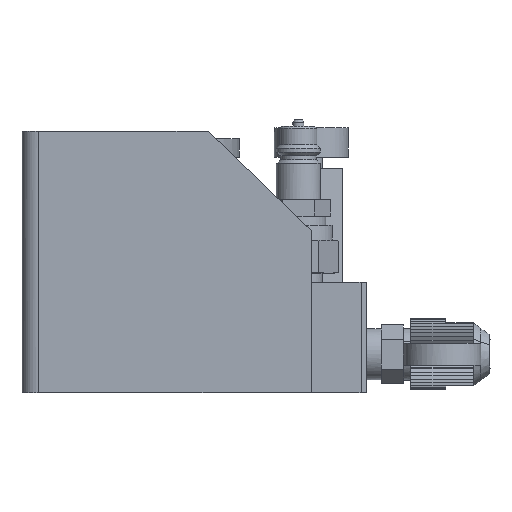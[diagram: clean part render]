
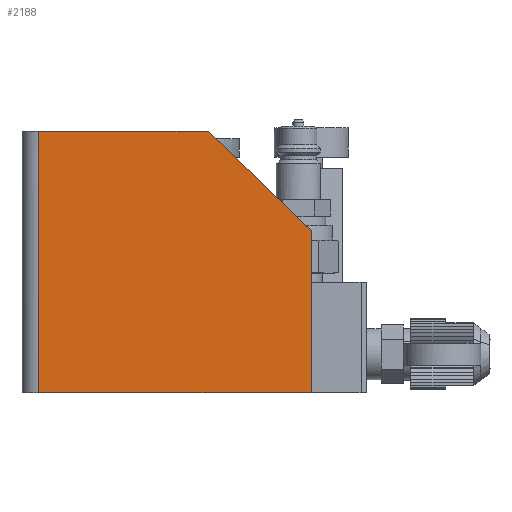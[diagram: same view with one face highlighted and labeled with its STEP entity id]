
A CAD part, left-side view. The second image highlights one B-rep face of the part: STEP entity #2188.
In plain terms, the highlighted planar face has unit normal (-1, 0, 0).
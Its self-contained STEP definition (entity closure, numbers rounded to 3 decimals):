
#1680=CARTESIAN_POINT('Vertex',(-61.5,89.,71.)) ;
#1683=CARTESIAN_POINT('Line Origine',(-61.5,66.,71.)) ;
#1687=CARTESIAN_POINT('Vertex',(-61.5,43.,71.)) ;
#1728=CARTESIAN_POINT('Line Origine',(-61.5,29.,57.5)) ;
#1732=CARTESIAN_POINT('Vertex',(-61.5,15.,44.)) ;
#1752=CARTESIAN_POINT('Line Origine',(-61.5,15.,22.)) ;
#1756=CARTESIAN_POINT('Vertex',(-61.5,15.,0.)) ;
#2152=CARTESIAN_POINT('Line Origine',(-61.5,89.,34.89)) ;
#2156=CARTESIAN_POINT('Vertex',(-61.5,89.,0.)) ;
#2171=CARTESIAN_POINT('Axis2P3D Location',(-61.5,15.,71.)) ;
#2176=CARTESIAN_POINT('Line Origine',(-61.5,52.,0.)) ;
#1684=DIRECTION('Vector Direction',(0.,1.,0.)) ;
#1729=DIRECTION('Vector Direction',(0.,-0.72,-0.694)) ;
#1753=DIRECTION('Vector Direction',(0.,0.,-1.)) ;
#2153=DIRECTION('Vector Direction',(0.,0.,1.)) ;
#2172=DIRECTION('Axis2P3D Direction',(-1.,0.,0.)) ;
#2173=DIRECTION('Axis2P3D XDirection',(0.,1.,0.)) ;
#2177=DIRECTION('Vector Direction',(0.,1.,0.)) ;
#2174=AXIS2_PLACEMENT_3D('Plane Axis2P3D',#2171,#2172,#2173) ;
#2182=ORIENTED_EDGE('',*,*,#1689,.F.) ;
#2183=ORIENTED_EDGE('',*,*,#2158,.T.) ;
#2184=ORIENTED_EDGE('',*,*,#2180,.F.) ;
#2185=ORIENTED_EDGE('',*,*,#1758,.F.) ;
#2186=ORIENTED_EDGE('',*,*,#1734,.F.) ;
#1685=VECTOR('Line Direction',#1684,1.) ;
#1730=VECTOR('Line Direction',#1729,1.) ;
#1754=VECTOR('Line Direction',#1753,1.) ;
#2154=VECTOR('Line Direction',#2153,1.) ;
#2178=VECTOR('Line Direction',#2177,1.) ;
#2188=ADVANCED_FACE('',(#2187),#2175,.T.) ;
#1689=EDGE_CURVE('',#1681,#1688,#1686,.F.) ;
#1734=EDGE_CURVE('',#1688,#1733,#1731,.T.) ;
#1758=EDGE_CURVE('',#1733,#1757,#1755,.T.) ;
#2158=EDGE_CURVE('',#1681,#2157,#2155,.F.) ;
#2180=EDGE_CURVE('',#1757,#2157,#2179,.T.) ;
#2181=EDGE_LOOP('',(#2182,#2183,#2184,#2185,#2186)) ;
#2187=FACE_OUTER_BOUND('',#2181,.T.) ;
#1686=LINE('Line',#1683,#1685) ;
#1731=LINE('Line',#1728,#1730) ;
#1755=LINE('Line',#1752,#1754) ;
#2155=LINE('Line',#2152,#2154) ;
#2179=LINE('Line',#2176,#2178) ;
#2175=PLANE('Plane',#2174) ;
#1681=VERTEX_POINT('',#1680) ;
#1688=VERTEX_POINT('',#1687) ;
#1733=VERTEX_POINT('',#1732) ;
#1757=VERTEX_POINT('',#1756) ;
#2157=VERTEX_POINT('',#2156) ;
